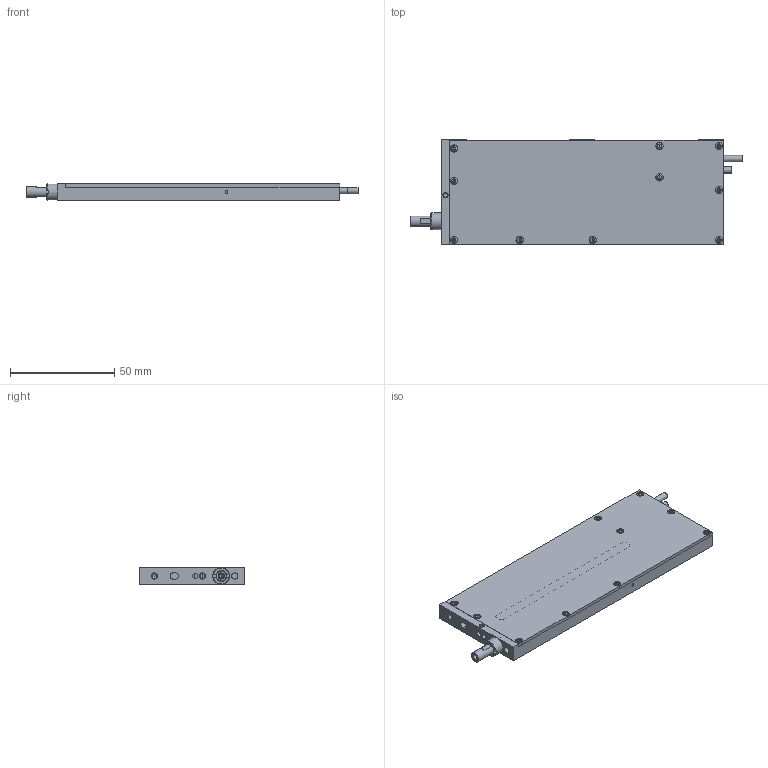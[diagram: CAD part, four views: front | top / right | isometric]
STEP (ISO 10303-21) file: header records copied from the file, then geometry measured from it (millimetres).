
FILE_DESCRIPTION((''),'2;1');
FILE_NAME('D:\SMAC-CAD\LCA\LCA8\LCA8-050\ASSY\LCA8-050-3D-NOSE_B.stp','2013-09-24T09:59:06',('ToanVu'),(''),'Autodesk Inventor 2008','Autodesk Inventor 2008','');
FILE_SCHEMA(('AUTOMOTIVE_DESIGN { 1 0 10303 214 1 1 1 1 }'));
Length unit declared in the file: millimetre
Products named in the file (10): LCA8-050-3D-NOSE_B; 900852-05-50-3D_A; 11619-50_A; 900852-PIS50-3D_B; 21561-02-50_A; 18564-01_A; LCA8-50COVER-3D; 23632-50_A; LCA8CAB-ADT; IS 6101 M1.6 x 2
Assembly tree (19 placements, depth 3):
  LCA8-050-3D-NOSE_B
    900852-05-50-3D_A
      11619-50_A
    900852-PIS50-3D_B
      21561-02-50_A
    18564-01_A
    LCA8-50COVER-3D
      23632-50_A
    LCA8CAB-ADT
    IS 6101 M1.6 x 2  x11
Bounding box: 159 x 50 x 8 mm (x, y, z)
Volume: 20574.8 mm3; surface area: 35686.3 mm2
Topology: 16 solids, 16 shells, 520 faces, 1243 edges, 812 vertices
Faces by surface type: plane 259, cylinder 113, bspline 93, cone 44, torus 11
Full cylindrical faces by diameter (mm): 1.41 x11, 1.6 x11, 2 x1, 3 x3, 3.6 x1, 4 x1, 5 x2, 6 x22, 6.5 x1, 7 x1, 7.4 x2, 8 x1
Entity records: 12407 total; most frequent: CARTESIAN_POINT 3451, DIRECTION 1777, ORIENTED_EDGE 1614, EDGE_CURVE 807, AXIS2_PLACEMENT_3D 663, EDGE_LOOP 620, VERTEX_POINT 603, VECTOR 451
